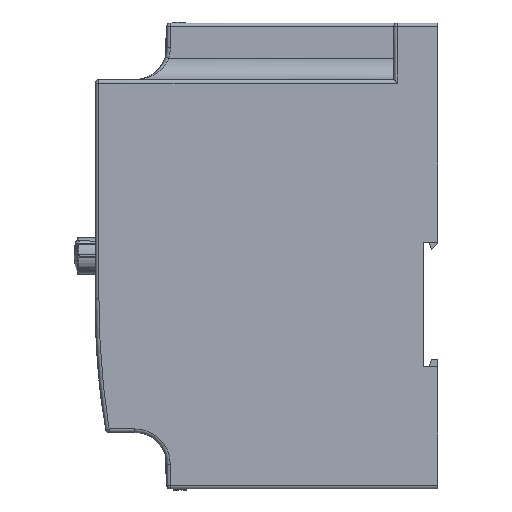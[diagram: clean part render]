
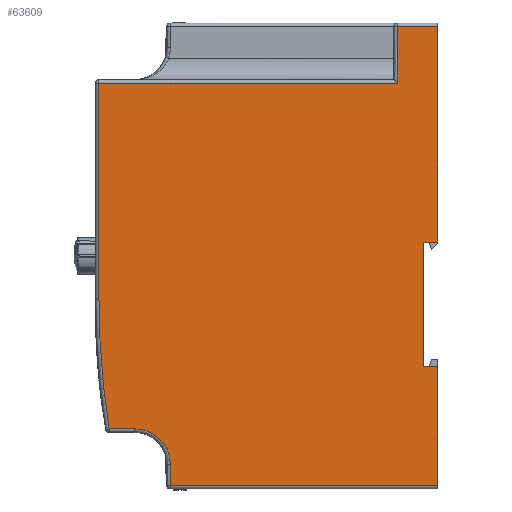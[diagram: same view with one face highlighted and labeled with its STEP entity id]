
A CAD part, left-side view. The second image highlights one B-rep face of the part: STEP entity #63609.
In plain terms, the highlighted planar face has unit normal (-1, 0, 0).
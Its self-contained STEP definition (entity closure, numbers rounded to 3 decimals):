
#20131 = CIRCLE ( 'NONE', #41847, 241.167 ) ;
#20132 = CIRCLE ( 'NONE', #41845, 10. ) ;
#33561 = CARTESIAN_POINT ( 'NONE',  ( -34., -145.167, -12. ) ) ;
#33563 = LINE ( 'NONE', #33565, #41848 ) ;
#33565 = CARTESIAN_POINT ( 'NONE',  ( -34., 97., -65. ) ) ;
#33567 = DIRECTION ( 'NONE',  ( 0., -1., 0. ) ) ;
#33569 = LINE ( 'NONE', #33571, #41849 ) ;
#33571 = CARTESIAN_POINT ( 'NONE',  ( -34., 75.8, 66. ) ) ;
#33573 = DIRECTION ( 'NONE',  ( 0., 0., -1. ) ) ;
#33575 = LINE ( 'NONE', #33577, #41850 ) ;
#33577 = CARTESIAN_POINT ( 'NONE',  ( -34., 0., 66. ) ) ;
#33579 = DIRECTION ( 'NONE',  ( 0., 0., 1. ) ) ;
#33581 = LINE ( 'NONE', #33583, #41851 ) ;
#33583 = CARTESIAN_POINT ( 'NONE',  ( -34., 2.5, -31.3 ) ) ;
#33585 = DIRECTION ( 'NONE',  ( 0., -1., 0. ) ) ;
#33587 = LINE ( 'NONE', #33589, #41852 ) ;
#33589 = CARTESIAN_POINT ( 'NONE',  ( -34., 4., -31.3 ) ) ;
#33591 = DIRECTION ( 'NONE',  ( 0., 0., -1. ) ) ;
#33593 = LINE ( 'NONE', #33595, #41853 ) ;
#33595 = CARTESIAN_POINT ( 'NONE',  ( -34., 4., 3.9 ) ) ;
#33597 = DIRECTION ( 'NONE',  ( 0., 1., 0. ) ) ;
#33599 = LINE ( 'NONE', #33601, #41854 ) ;
#33601 = CARTESIAN_POINT ( 'NONE',  ( -34., 0., 66. ) ) ;
#33603 = DIRECTION ( 'NONE',  ( 0., 0., 1. ) ) ;
#33605 = LINE ( 'NONE', #33607, #41855 ) ;
#33607 = CARTESIAN_POINT ( 'NONE',  ( -34., 97., 65. ) ) ;
#33609 = DIRECTION ( 'NONE',  ( 0., 1., 0. ) ) ;
#33611 = LINE ( 'NONE', #33613, #41856 ) ;
#33613 = CARTESIAN_POINT ( 'NONE',  ( -34., 11.5, 66. ) ) ;
#33615 = DIRECTION ( 'NONE',  ( 0., 0., -1. ) ) ;
#33617 = LINE ( 'NONE', #33619, #41857 ) ;
#33619 = CARTESIAN_POINT ( 'NONE',  ( -34., 97., 49. ) ) ;
#33621 = DIRECTION ( 'NONE',  ( 0., 1., 0. ) ) ;
#33623 = LINE ( 'NONE', #33625, #41858 ) ;
#33625 = CARTESIAN_POINT ( 'NONE',  ( -34., 96., 66. ) ) ;
#33627 = DIRECTION ( 'NONE',  ( 0., 0., -1. ) ) ;
#33629 = DIRECTION ( 'NONE',  ( -1., 0., 0. ) ) ;
#33631 = DIRECTION ( 'NONE',  ( 0., 0., -1. ) ) ;
#33633 = CARTESIAN_POINT ( 'NONE',  ( -34., 85.8, -59. ) ) ;
#33635 = LINE ( 'NONE', #33637, #41860 ) ;
#33637 = CARTESIAN_POINT ( 'NONE',  ( -34., 85.8, -49. ) ) ;
#33639 = DIRECTION ( 'NONE',  ( 0., -1., 0. ) ) ;
#33641 = DIRECTION ( 'NONE',  ( 1., 0., 0. ) ) ;
#33643 = DIRECTION ( 'NONE',  ( 0., 0., -1. ) ) ;
#36392 = EDGE_LOOP ( 'NONE', ( #42814, #42818, #42816, #42820, #42822, #42824, #42826, #42828, #42830, #42832, #42834, #42836, #42838, #42840 ) ) ;
#41845 = AXIS2_PLACEMENT_3D ( 'NONE', #33633, #33641, #33643 ) ;
#41847 = AXIS2_PLACEMENT_3D ( 'NONE', #33561, #33629, #33631 ) ;
#41848 = VECTOR ( 'NONE', #33567, 1000. ) ;
#41849 = VECTOR ( 'NONE', #33573, 1000. ) ;
#41850 = VECTOR ( 'NONE', #33579, 1000. ) ;
#41851 = VECTOR ( 'NONE', #33585, 1000. ) ;
#41852 = VECTOR ( 'NONE', #33591, 1000. ) ;
#41853 = VECTOR ( 'NONE', #33597, 1000. ) ;
#41854 = VECTOR ( 'NONE', #33603, 1000. ) ;
#41855 = VECTOR ( 'NONE', #33609, 1000. ) ;
#41856 = VECTOR ( 'NONE', #33615, 1000. ) ;
#41857 = VECTOR ( 'NONE', #33621, 1000. ) ;
#41858 = VECTOR ( 'NONE', #33627, 1000. ) ;
#41860 = VECTOR ( 'NONE', #33639, 1000. ) ;
#42814 = ORIENTED_EDGE ( 'NONE', *, *, #50428, .T. ) ;
#42816 = ORIENTED_EDGE ( 'NONE', *, *, #50429, .T. ) ;
#42818 = ORIENTED_EDGE ( 'NONE', *, *, #50427, .T. ) ;
#42820 = ORIENTED_EDGE ( 'NONE', *, *, #50430, .F. ) ;
#42822 = ORIENTED_EDGE ( 'NONE', *, *, #50431, .F. ) ;
#42824 = ORIENTED_EDGE ( 'NONE', *, *, #50432, .F. ) ;
#42826 = ORIENTED_EDGE ( 'NONE', *, *, #50433, .T. ) ;
#42828 = ORIENTED_EDGE ( 'NONE', *, *, #50434, .T. ) ;
#42830 = ORIENTED_EDGE ( 'NONE', *, *, #50435, .T. ) ;
#42832 = ORIENTED_EDGE ( 'NONE', *, *, #50436, .T. ) ;
#42834 = ORIENTED_EDGE ( 'NONE', *, *, #50437, .T. ) ;
#42836 = ORIENTED_EDGE ( 'NONE', *, *, #50438, .T. ) ;
#42838 = ORIENTED_EDGE ( 'NONE', *, *, #50439, .T. ) ;
#42840 = ORIENTED_EDGE ( 'NONE', *, *, #50440, .T. ) ;
#46800 = CARTESIAN_POINT ( 'NONE',  ( -34., 85.8, -49. ) ) ;
#46802 = CARTESIAN_POINT ( 'NONE',  ( -34., 93.145, -49. ) ) ;
#46804 = CARTESIAN_POINT ( 'NONE',  ( -34., 96., -12. ) ) ;
#46806 = CARTESIAN_POINT ( 'NONE',  ( -34., 96., 49. ) ) ;
#46808 = CARTESIAN_POINT ( 'NONE',  ( -34., 11.5, 49. ) ) ;
#46810 = CARTESIAN_POINT ( 'NONE',  ( -34., 11.5, 65. ) ) ;
#46812 = CARTESIAN_POINT ( 'NONE',  ( -34., 0., 65. ) ) ;
#46814 = CARTESIAN_POINT ( 'NONE',  ( -34., 0., 3.9 ) ) ;
#46816 = CARTESIAN_POINT ( 'NONE',  ( -34., 4., 3.9 ) ) ;
#46818 = CARTESIAN_POINT ( 'NONE',  ( -34., 4., -31.3 ) ) ;
#46820 = CARTESIAN_POINT ( 'NONE',  ( -34., 0., -31.3 ) ) ;
#46822 = CARTESIAN_POINT ( 'NONE',  ( -34., 0., -65. ) ) ;
#46824 = CARTESIAN_POINT ( 'NONE',  ( -34., 75.8, -65. ) ) ;
#46826 = CARTESIAN_POINT ( 'NONE',  ( -34., 75.8, -59. ) ) ;
#47132 = FACE_OUTER_BOUND ( 'NONE', #36392, .T. ) ;
#47135 = AXIS2_PLACEMENT_3D ( 'NONE', #48438, #48439, #48440 ) ;
#48437 = PLANE ( 'NONE',  #47135 ) ;
#48438 = CARTESIAN_POINT ( 'NONE',  ( -34., 97., 66. ) ) ;
#48439 = DIRECTION ( 'NONE',  ( 1., 0., 0. ) ) ;
#48440 = DIRECTION ( 'NONE',  ( 0., 0., -1. ) ) ;
#50427 = EDGE_CURVE ( 'NONE', #57409, #57406, #33563, .T. ) ;
#50428 = EDGE_CURVE ( 'NONE', #57412, #57409, #33569, .T. ) ;
#50429 = EDGE_CURVE ( 'NONE', #57406, #57403, #33575, .T. ) ;
#50430 = EDGE_CURVE ( 'NONE', #57400, #57403, #33581, .T. ) ;
#50431 = EDGE_CURVE ( 'NONE', #57397, #57400, #33587, .T. ) ;
#50432 = EDGE_CURVE ( 'NONE', #57394, #57397, #33593, .T. ) ;
#50433 = EDGE_CURVE ( 'NONE', #57394, #57391, #33599, .T. ) ;
#50434 = EDGE_CURVE ( 'NONE', #57391, #57388, #33605, .T. ) ;
#50435 = EDGE_CURVE ( 'NONE', #57388, #57385, #33611, .T. ) ;
#50436 = EDGE_CURVE ( 'NONE', #57385, #57382, #33617, .T. ) ;
#50437 = EDGE_CURVE ( 'NONE', #57382, #57379, #33623, .T. ) ;
#50438 = EDGE_CURVE ( 'NONE', #57379, #57376, #20131, .T. ) ;
#50439 = EDGE_CURVE ( 'NONE', #57376, #57373, #33635, .T. ) ;
#50440 = EDGE_CURVE ( 'NONE', #57373, #57412, #20132, .T. ) ;
#57373 = VERTEX_POINT ( 'NONE', #46800 ) ;
#57376 = VERTEX_POINT ( 'NONE', #46802 ) ;
#57379 = VERTEX_POINT ( 'NONE', #46804 ) ;
#57382 = VERTEX_POINT ( 'NONE', #46806 ) ;
#57385 = VERTEX_POINT ( 'NONE', #46808 ) ;
#57388 = VERTEX_POINT ( 'NONE', #46810 ) ;
#57391 = VERTEX_POINT ( 'NONE', #46812 ) ;
#57394 = VERTEX_POINT ( 'NONE', #46814 ) ;
#57397 = VERTEX_POINT ( 'NONE', #46816 ) ;
#57400 = VERTEX_POINT ( 'NONE', #46818 ) ;
#57403 = VERTEX_POINT ( 'NONE', #46820 ) ;
#57406 = VERTEX_POINT ( 'NONE', #46822 ) ;
#57409 = VERTEX_POINT ( 'NONE', #46824 ) ;
#57412 = VERTEX_POINT ( 'NONE', #46826 ) ;
#63609 = ADVANCED_FACE ( 'NONE', ( #47132 ), #48437, .F. ) ;
